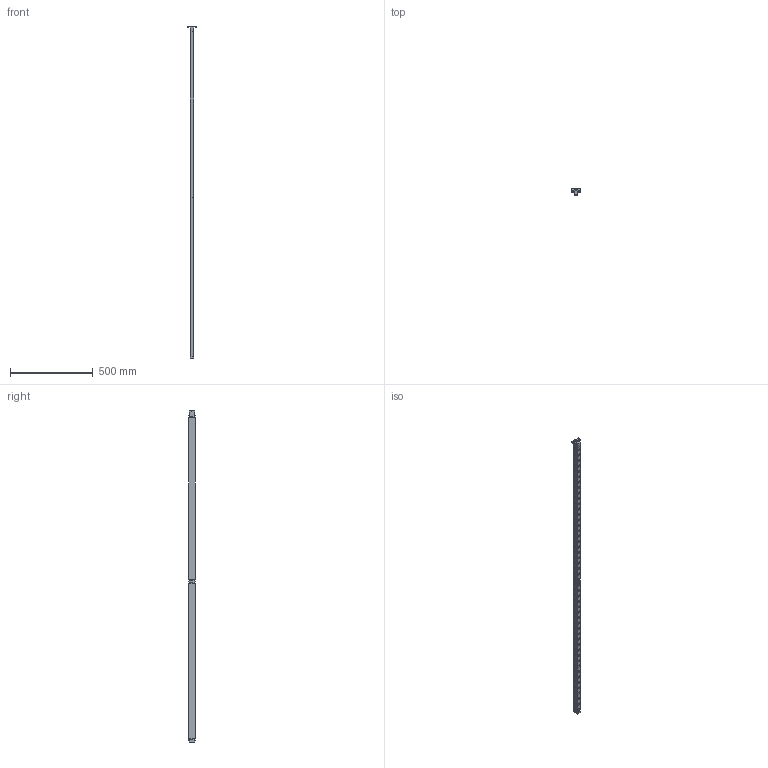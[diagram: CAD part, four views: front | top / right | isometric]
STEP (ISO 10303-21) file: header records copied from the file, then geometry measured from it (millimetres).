
FILE_DESCRIPTION(/* description */ (''),/* implementation_level */ '2;1');
FILE_NAME(/* name */ 'S:\EASCN Vault\Designs\Standard Part\DIE LIFTERS\EHB\EHB- 3D step\EHB22 - 3D step complete serie\EHB 22-49.stp',/* time_stamp */ '2019-11-21T16:15:54+08:00',/* author */ ('yue.yang'),/* organization */ (''),/* preprocessor_version */ 'ST-DEVELOPER v17',/* originating_system */ 'Autodesk Inventor 2019',/* authorisation */ '');
FILE_SCHEMA (('AUTOMOTIVE_DESIGN { 1 0 10303 214 3 1 1 }'));
Products named in the file (1): EHB 22-49_Shrinkwrap_1
Bounding box: 58 x 37.8 x 2009 mm (x, y, z)
Volume: 1287281.6 mm3; surface area: 505417.8 mm2
Topology: 166 solids, 166 shells, 1580 faces, 4374 edges, 3176 vertices
Faces by surface type: plane 538, cylinder 509, torus 245, cone 239, sphere 49
Full cylindrical faces by diameter (mm): 3 x3, 4.134 x1, 5 x27, 5.5 x5, 6 x51, 6.647 x2, 8 x2, 10 x8, 10.5 x1, 12.2 x49, 16 x49, 16.4 x49, 17.05 x49, 19.05 x49, 19.2 x49
Entity records: 59642 total; most frequent: CARTESIAN_POINT 14996, DIRECTION 9796, ORIENTED_EDGE 8442, AXIS2_PLACEMENT_3D 4377, EDGE_CURVE 4221, VERTEX_POINT 3176, CIRCLE 2794, EDGE_LOOP 2043
